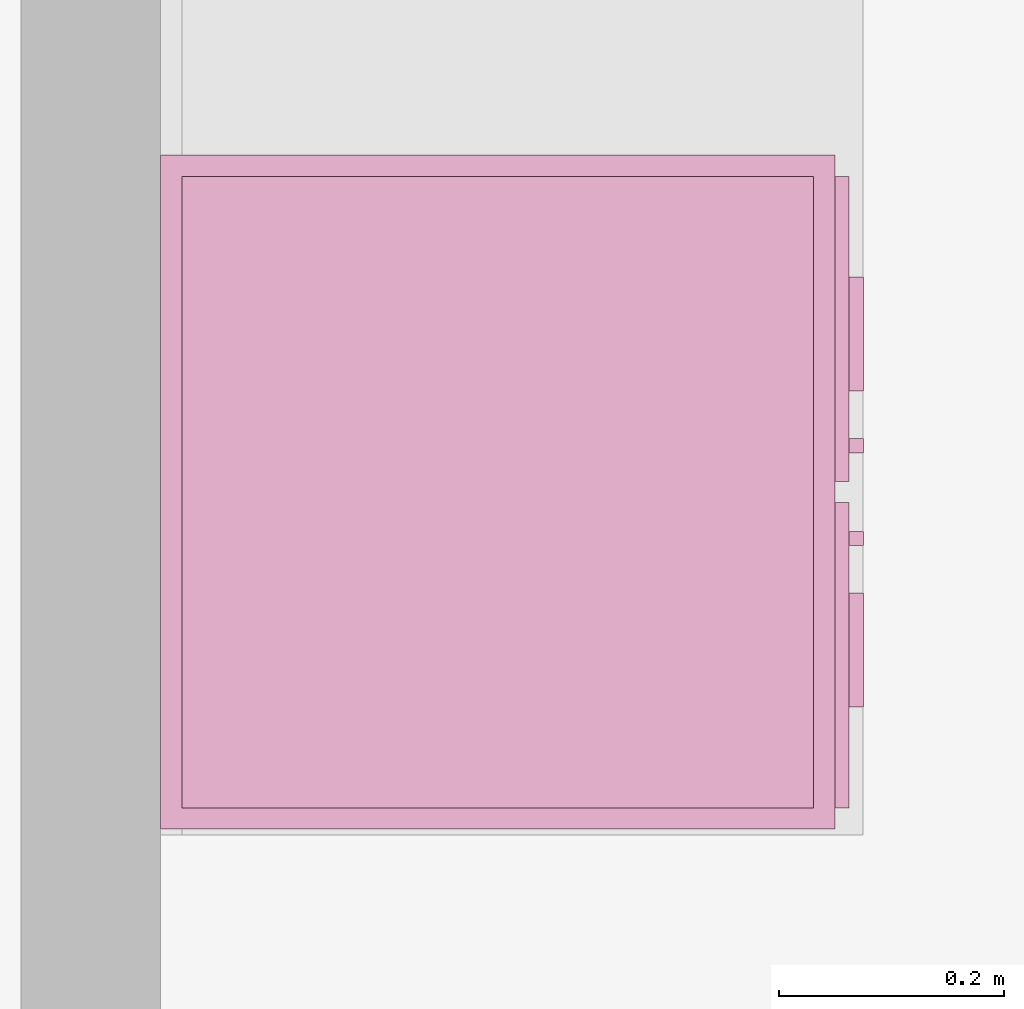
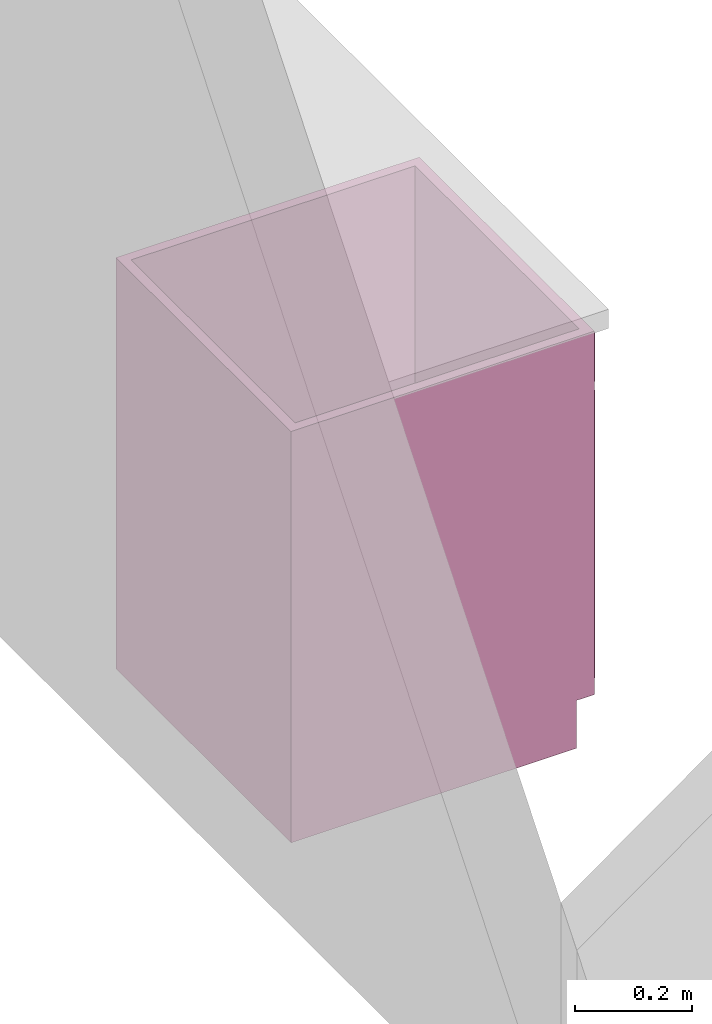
# One storey, part 75 of 82: 1 furnishing.
"""IFC2X3 building model written with IfcOpenShell, lengths in metres."""

from ifc_helpers import new_model, entity, si_unit, converted_unit, frame, origin, place, context, project, spatial, face_set, surface_model, source, transform, mapped, type_object, type_shapes, element, save


model = new_model("IFC2X3")

# Units and contexts
model_context = context("Model", 3, precision=1e-09, world=origin())
plan_context = context("Plan", 3, precision=1e-09, world=origin())
ifc_project = project(units=[si_unit("LENGTHUNIT", "METRE"), si_unit("AREAUNIT", "SQUARE_METRE"), si_unit("VOLUMEUNIT", "CUBIC_METRE"), converted_unit("PLANEANGLEUNIT", "DEGREE", entity("IfcRatioMeasure", 0.01745329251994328), si_unit("PLANEANGLEUNIT", "RADIAN"), dimensions=[0, 0, 0, 0, 0, 0, 0]), si_unit("TIMEUNIT", "SECOND")], contexts=[model_context, plan_context])

# Site, building, storey, space
site_placement = place(None, origin())
site = spatial("IfcSite", under=ifc_project, at=site_placement, Name="Default", CompositionType="ELEMENT")
building_placement = place(site_placement, origin())
building = spatial("IfcBuilding", under=site, at=building_placement, CompositionType="ELEMENT")
storey_placement = place(building_placement, origin())
storey = spatial("IfcBuildingStorey", under=building, at=storey_placement, Name="First Floor", CompositionType="ELEMENT", Elevation=-3.531500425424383e-13)
space_placement = place(storey_placement, origin())
space = spatial("IfcSpace", under=storey, at=space_placement, Name="1B10", CompositionType="ELEMENT", InteriorOrExteriorSpace="INTERNAL")

# Furnishing
furniture_type = type_object("IfcFurnitureType", Name="600mm", AssemblyPlace="NOTDEFINED")
shared_shape = source(origin(), model_context, "Body", "SurfaceModel", [
    surface_model("IfcFaceBasedSurfaceModel", [(0.5809499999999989, 0.0444500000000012, 0.86000000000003), (0.5809499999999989, 0.0444500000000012, 0.09999999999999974), (0.01905000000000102, 0.0444500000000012, 0.09999999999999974), (0.01905000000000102, 0.0444500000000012, 0.86000000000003), (0.5999999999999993, 0.02540000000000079, 0.8600000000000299), (0.0, 0.02540000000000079, 0.8600000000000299), (0.5999999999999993, 0.02540000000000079, 0.09999999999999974), (0.0, 0.02540000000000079, 0.0999999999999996), (0.01905000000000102, 0.6063499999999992, 0.86000000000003), (0.01905000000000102, 0.6063499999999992, 0.09999999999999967), (0.01905000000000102, 0.06040000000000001, 0.09999999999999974), (0.0, 0.6253999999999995, 0.8600000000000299), (0.0, 0.6254000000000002, 0.0), (0.0, 0.06040000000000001, 0.0), (0.0, 0.06040000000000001, 0.09999999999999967), (0.5809499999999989, 0.6063499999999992, 0.86000000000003), (0.5809499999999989, 0.6063499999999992, 0.09999999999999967), (0.5999999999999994, 0.6253999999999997, 0.8600000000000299), (0.5999999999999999, 0.6253999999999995, 0.0), (0.5809499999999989, 0.06040000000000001, 0.09999999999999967), (0.5999999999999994, 0.06040000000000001, 0.09999999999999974), (0.5999999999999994, 0.06040000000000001, 0.0), (0.2103250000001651, 0.0, 0.8155500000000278), (0.2103250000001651, 0.0, 0.8028500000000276), (0.1087250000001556, 0.0, 0.8028500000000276), (0.1087250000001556, 0.0, 0.8155500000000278), (0.4912750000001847, 0.0, 0.8155500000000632), (0.4912750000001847, 0.0, 0.8028500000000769), (0.3896750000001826, 0.0, 0.8028500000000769), (0.3896750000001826, 0.0, 0.8155500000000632), (0.2650750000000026, 0.0, 0.6822000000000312), (0.2650750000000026, 0.0, 0.5806000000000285), (0.2523750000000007, 0.0, 0.5806000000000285), (0.2523750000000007, 0.0, 0.6822000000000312), (0.3476249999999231, 0.0, 0.6822000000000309), (0.3476249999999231, 0.0, 0.5806000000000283), (0.3349249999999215, 0.0, 0.5806000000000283), (0.3349249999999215, 0.0, 0.6822000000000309), (0.2103250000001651, 0.0127000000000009, 0.8155500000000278), (0.2103250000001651, 0.0127000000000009, 0.8028500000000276), (0.1087250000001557, 0.01270000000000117, 0.8028500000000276), (0.1087250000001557, 0.01270000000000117, 0.8155500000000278), (0.4912750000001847, 0.01269999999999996, 0.8155500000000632), (0.4912750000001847, 0.01269999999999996, 0.8028500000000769), (0.3896750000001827, 0.01270000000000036, 0.8028500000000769), (0.3896750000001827, 0.01270000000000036, 0.8155500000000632), (0.2650750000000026, 0.01270000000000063, 0.6822000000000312), (0.2650750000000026, 0.01270000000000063, 0.5806000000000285), (0.2523750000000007, 0.01270000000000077, 0.5806000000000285), (0.2523750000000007, 0.01270000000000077, 0.6822000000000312), (0.3476249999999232, 0.0127000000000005, 0.6822000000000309), (0.3476249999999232, 0.0127000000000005, 0.5806000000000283), (0.3349249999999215, 0.0127000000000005, 0.5806000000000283), (0.3349249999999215, 0.0127000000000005, 0.6822000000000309), (0.2904749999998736, 0.01270000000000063, 0.8409500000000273), (0.2904749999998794, 0.01270000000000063, 0.7393500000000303), (0.01905000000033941, 0.01270000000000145, 0.7393500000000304), (0.01905000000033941, 0.01270000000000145, 0.8409500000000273), (0.5809500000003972, 0.01269999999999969, 0.8409500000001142), (0.5809500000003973, 0.01269999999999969, 0.7393500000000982), (0.3095249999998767, 0.0127000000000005, 0.7393500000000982), (0.309524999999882, 0.0127000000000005, 0.8409500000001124), (0.2904749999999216, 0.01270000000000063, 0.7203000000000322), (0.290474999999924, 0.01270000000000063, 0.1190499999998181), (0.01905000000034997, 0.01270000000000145, 0.1190499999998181), (0.01905000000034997, 0.01270000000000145, 0.7203000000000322), (0.5809500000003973, 0.01269999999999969, 0.7203000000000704), (0.5809500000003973, 0.01269999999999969, 0.1190499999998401), (0.3095249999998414, 0.0127000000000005, 0.1190499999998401), (0.3095249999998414, 0.0127000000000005, 0.7203000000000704), (0.2904749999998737, 0.02540000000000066, 0.8409500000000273), (0.2904749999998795, 0.02540000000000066, 0.7393500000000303), (0.01905000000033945, 0.02540000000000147, 0.7393500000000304), (0.01905000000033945, 0.02540000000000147, 0.8409500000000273), (0.5809500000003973, 0.02539999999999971, 0.8409500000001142), (0.5809500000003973, 0.02539999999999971, 0.7393500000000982), (0.3095249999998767, 0.02540000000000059, 0.7393500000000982), (0.309524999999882, 0.02540000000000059, 0.8409500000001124), (0.2904749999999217, 0.02540000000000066, 0.7203000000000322), (0.290474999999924, 0.02540000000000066, 0.1190499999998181), (0.01905000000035, 0.02540000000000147, 0.1190499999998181), (0.01905000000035, 0.02540000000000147, 0.7203000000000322), (0.5809500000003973, 0.02539999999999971, 0.7203000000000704), (0.5809500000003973, 0.02539999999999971, 0.1190499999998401), (0.3095249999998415, 0.02540000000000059, 0.1190499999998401), (0.3095249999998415, 0.02540000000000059, 0.7203000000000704), (0.580949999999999, 0.6063499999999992, 0.1190499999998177), (0.580949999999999, 0.04445000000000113, 0.1190499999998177), (0.01905000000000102, 0.04445000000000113, 0.1190499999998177), (0.01905000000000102, 0.6063499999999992, 0.1190499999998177), (0.580949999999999, 0.6063499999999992, 0.09999999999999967), (0.580949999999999, 0.04445000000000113, 0.09999999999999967), (0.01905000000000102, 0.04445000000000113, 0.09999999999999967)], [face_set([[[0, 1, 2, 3]], [[0, 4, 5, 3]], [[4, 6, 7, 5]], [[2, 1, 6, 7]], [[3, 8, 9, 10, 2]], [[5, 11, 8, 3]], [[7, 5, 11, 12, 13, 14]], [[2, 7, 14, 10]], [[8, 15, 16, 9]], [[11, 17, 15, 8]], [[12, 11, 17, 18]], [[1, 19, 16, 15, 0]], [[0, 15, 17, 4]], [[4, 6, 20, 21, 18, 17]], [[6, 1, 19, 20]], [[10, 9, 16, 19]], [[18, 21, 13, 12]], [[13, 14, 10, 19, 20, 21]]]), face_set([[[22, 23, 24, 25]], [[26, 27, 28, 29]], [[30, 31, 32, 33]], [[34, 35, 36, 37]], [[38, 39, 40, 41]], [[42, 43, 44, 45]], [[46, 47, 48, 49]], [[50, 51, 52, 53]], [[25, 41, 38, 22]], [[24, 40, 41, 25]], [[23, 24, 40, 39]], [[22, 23, 39, 38]], [[29, 45, 42, 26]], [[28, 44, 45, 29]], [[27, 28, 44, 43]], [[26, 27, 43, 42]], [[33, 49, 46, 30]], [[32, 48, 49, 33]], [[31, 32, 48, 47]], [[30, 31, 47, 46]], [[37, 53, 50, 34]], [[36, 52, 53, 37]], [[35, 36, 52, 51]], [[34, 35, 51, 50]]]), face_set([[[54, 55, 56, 57]], [[58, 59, 60, 61]], [[62, 63, 64, 65]], [[66, 67, 68, 69]], [[70, 71, 72, 73]], [[74, 75, 76, 77]], [[78, 79, 80, 81]], [[82, 83, 84, 85]], [[57, 73, 70, 54]], [[56, 57, 73, 72]], [[55, 56, 72, 71]], [[54, 55, 71, 70]], [[61, 77, 74, 58]], [[60, 76, 77, 61]], [[59, 60, 76, 75]], [[58, 59, 75, 74]], [[65, 81, 78, 62]], [[64, 65, 81, 80]], [[63, 64, 80, 79]], [[62, 63, 79, 78]], [[69, 85, 82, 66]], [[68, 84, 85, 69]], [[67, 68, 84, 83]], [[66, 67, 83, 82]]]), face_set([[[86, 87, 88, 89]], [[90, 91, 92, 9]], [[89, 86, 90, 9]], [[88, 89, 9, 92]], [[87, 91, 92, 88]], [[86, 87, 91, 90]]])]),
])
type_shapes(furniture_type, [shared_shape])
furnishing_placement = place(space_placement, frame((-6.830575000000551, 11.19499999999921, 0.0), z_axis=(0.0, 0.0, 1.0), x_axis=(0.0, 1.0, 0.0)))
element("IfcFurnishingElement", 1, at=furnishing_placement, inside=space, type_object=furniture_type, Name="M_Base Cabinet-Double Door & 2 Drawer:600mm:600mm", ObjectType="600mm", context=model_context, shape_type="MappedRepresentation", body=[
    mapped(shared_shape, transform((0.0, 0.0, 0.0), scale=1.0)),
])

save(model, "model.ifc")
